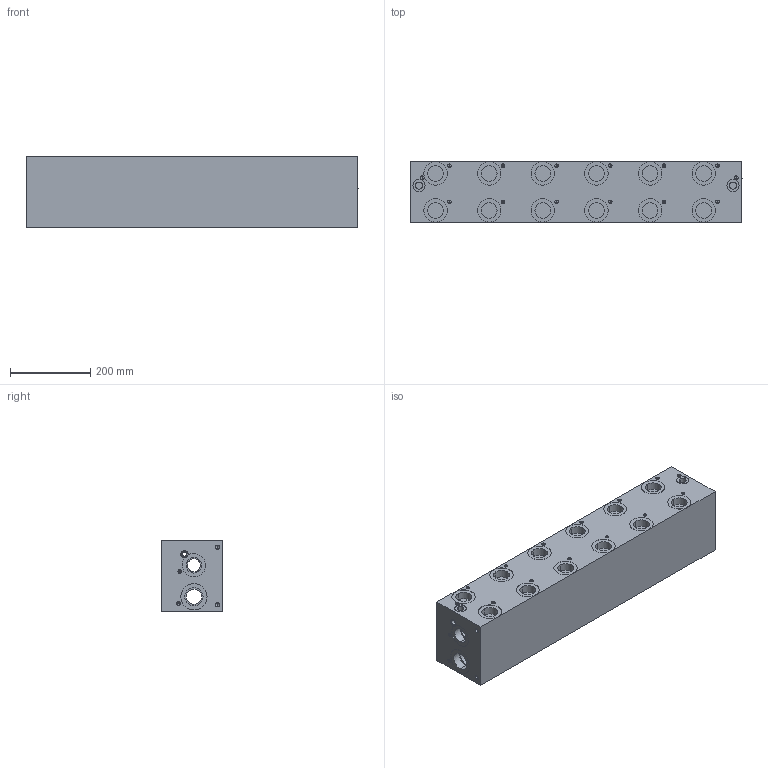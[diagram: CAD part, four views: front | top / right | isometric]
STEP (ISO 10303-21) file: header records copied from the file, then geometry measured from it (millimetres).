
FILE_DESCRIPTION (( 'STEP AP203' ), '1' );
FILE_NAME ('BMR-AHP08S5-06-1_Z.STEP', '2015-01-06T16:25:26', ( '' ), ( '' ), 'SwSTEP 2.0', 'SolidWorks 2014', '' );
FILE_SCHEMA (( 'CONFIG_CONTROL_DESIGN' ));
Length unit declared in the file: inch
Products named in the file (1): BMR-AHP08S5-06-1_Z
Bounding box: 825.5 x 152.4 x 177.8 mm (x, y, z)
Volume: 20146223.8 mm3; surface area: 893038.3 mm2
Topology: 1 solids, 1 shells, 982 faces, 2348 edges, 1416 vertices
Faces by surface type: cylinder 374, plane 358, cone 176, bspline 74
Entity records: 31403 total; most frequent: CARTESIAN_POINT 9301, DIRECTION 4594, ORIENTED_EDGE 4344, EDGE_CURVE 2172, AXIS2_PLACEMENT_3D 1661, VERTEX_POINT 1416, VECTOR 1272, LINE 1272
